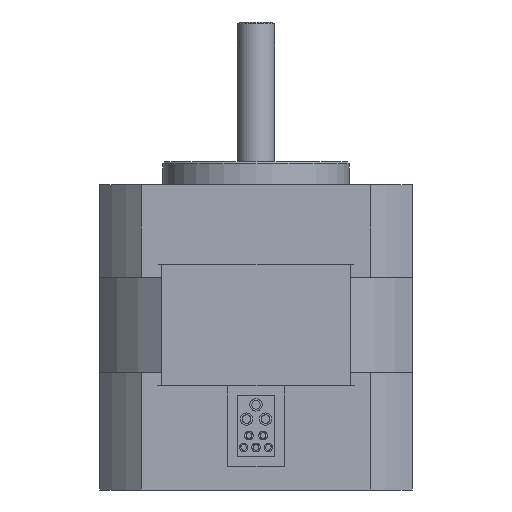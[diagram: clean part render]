
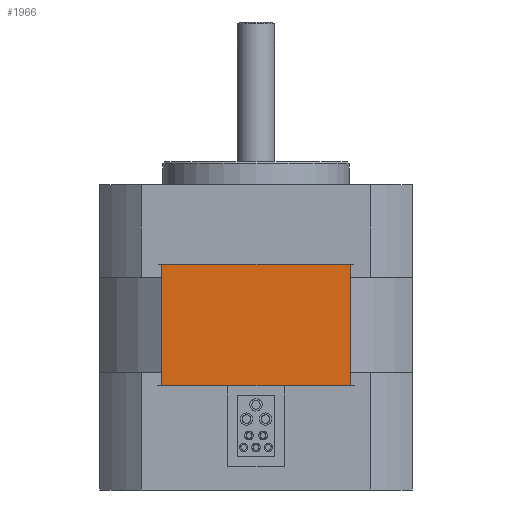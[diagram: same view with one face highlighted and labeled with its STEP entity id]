
A CAD part, front view. The second image highlights one B-rep face of the part: STEP entity #1966.
In plain terms, the highlighted planar face has unit normal (0, -1, 0).
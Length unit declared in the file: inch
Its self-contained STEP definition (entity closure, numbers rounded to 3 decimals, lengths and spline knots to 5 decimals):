
#129 = CARTESIAN_POINT ( 'NONE',  ( 0.49895, -0.826, -1.064 ) ) ;
#133 = LINE ( 'NONE', #129, #6334 ) ;
#137 = DIRECTION ( 'NONE',  ( -1., 0., 0. ) ) ;
#929 = VERTEX_POINT ( 'NONE', #4562 ) ;
#938 = VERTEX_POINT ( 'NONE', #4571 ) ;
#947 = VERTEX_POINT ( 'NONE', #4580 ) ;
#959 = VERTEX_POINT ( 'NONE', #4592 ) ;
#1471 = ORIENTED_EDGE ( 'NONE', *, *, #2090, .T. ) ;
#1472 = ORIENTED_EDGE ( 'NONE', *, *, #2141, .F. ) ;
#1473 = ORIENTED_EDGE ( 'NONE', *, *, #6721, .F. ) ;
#1474 = ORIENTED_EDGE ( 'NONE', *, *, #2189, .T. ) ;
#1966 = ADVANCED_FACE ( 'NONE', ( #2590 ), #2591, .F. ) ;
#2090 = EDGE_CURVE ( 'NONE', #929, #938, #7912, .T. ) ;
#2141 = EDGE_CURVE ( 'NONE', #959, #938, #8067, .T. ) ;
#2189 = EDGE_CURVE ( 'NONE', #947, #929, #8203, .T. ) ;
#2590 = FACE_OUTER_BOUND ( 'NONE', #2672, .T. ) ;
#2591 = PLANE ( 'NONE',  #5239 ) ;
#2603 = CARTESIAN_POINT ( 'NONE',  ( 0.49895, -0.826, -1.064 ) ) ;
#2604 = DIRECTION ( 'NONE',  ( 0., 1., 0. ) ) ;
#2605 = DIRECTION ( 'NONE',  ( -1., 0., 0. ) ) ;
#2672 = EDGE_LOOP ( 'NONE', ( #1471, #1472, #1473, #1474 ) ) ;
#4562 = CARTESIAN_POINT ( 'NONE',  ( 0.49895, -0.826, -0.42 ) ) ;
#4571 = CARTESIAN_POINT ( 'NONE',  ( -0.49895, -0.826, -0.42 ) ) ;
#4580 = CARTESIAN_POINT ( 'NONE',  ( 0.49895, -0.826, -1.064 ) ) ;
#4592 = CARTESIAN_POINT ( 'NONE',  ( -0.49895, -0.826, -1.064 ) ) ;
#5239 = AXIS2_PLACEMENT_3D ( 'NONE', #2603, #2604, #2605 ) ;
#5654 = VECTOR ( 'NONE', #7917, 39.37008 ) ;
#5728 = VECTOR ( 'NONE', #8069, 39.37008 ) ;
#5792 = VECTOR ( 'NONE', #8213, 39.37008 ) ;
#6334 = VECTOR ( 'NONE', #137, 39.37008 ) ;
#6721 = EDGE_CURVE ( 'NONE', #947, #959, #133, .T. ) ;
#7910 = CARTESIAN_POINT ( 'NONE',  ( 0.49895, -0.826, -0.42 ) ) ;
#7912 = LINE ( 'NONE', #7910, #5654 ) ;
#7917 = DIRECTION ( 'NONE',  ( -1., 0., 0. ) ) ;
#8067 = LINE ( 'NONE', #8068, #5728 ) ;
#8068 = CARTESIAN_POINT ( 'NONE',  ( -0.49895, -0.826, -1.064 ) ) ;
#8069 = DIRECTION ( 'NONE',  ( 0., 0., 1. ) ) ;
#8200 = CARTESIAN_POINT ( 'NONE',  ( 0.49895, -0.826, -1.064 ) ) ;
#8203 = LINE ( 'NONE', #8200, #5792 ) ;
#8213 = DIRECTION ( 'NONE',  ( 0., 0., 1. ) ) ;
